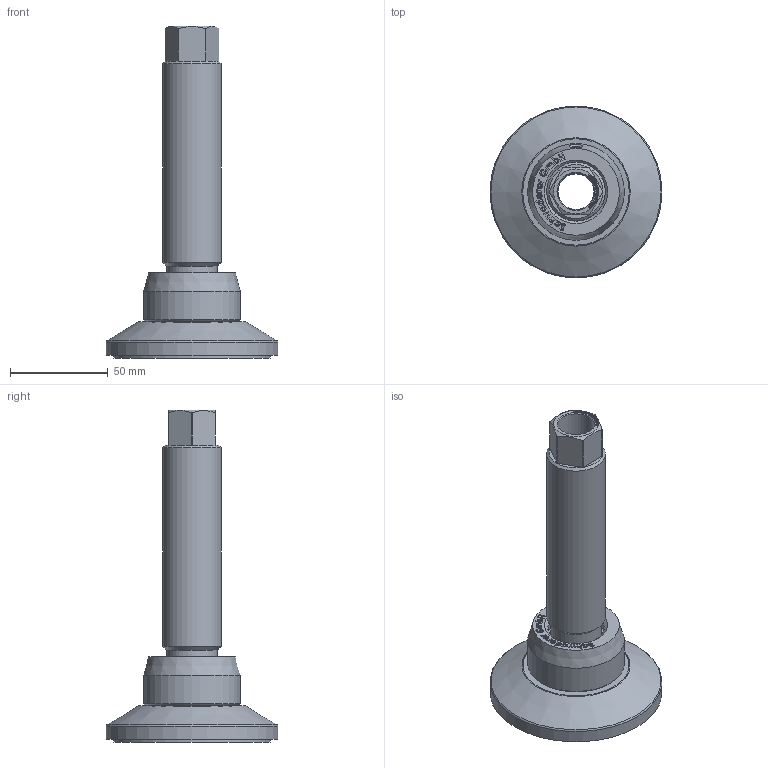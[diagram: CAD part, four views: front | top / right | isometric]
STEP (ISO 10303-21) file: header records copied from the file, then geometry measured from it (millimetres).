
FILE_DESCRIPTION(/* description */ ('JCM 80C - M30 - S6'),/* implementation_level */ '2;1');
FILE_NAME(/* name */ 'P:\CAD ab 2015\STP - Internetseite\JCMHD\JCMHD 80C - S - HSD145.stp',/* time_stamp */ '2021-09-30T15:56:01+02:00',/* author */ ('T. Rey'),/* organization */ ('Schwaderer GmbH Robert-Bosch-Str. 10 71563 Affalterbach'),/* preprocessor_version */ 'ST-DEVELOPER v18.1',/* originating_system */ 'Autodesk Inventor LT',/* authorisation */ '');
FILE_SCHEMA (('CONFIG_CONTROL_DESIGN'));
Length unit declared in the file: millimetre
Products named in the file (1): JCMHD 80C - S - HSD110
Bounding box: 88 x 88 x 169.9 mm (x, y, z)
Volume: 170813.6 mm3; surface area: 59089.4 mm2
Topology: 4 solids, 4 shells, 479 faces, 1300 edges, 869 vertices
Faces by surface type: plane 243, bspline 192, cylinder 23, cone 17, torus 3, sphere 1
Full cylindrical faces by diameter (mm): 5 x1, 18.5 x2, 25 x1, 26 x1, 26.5 x1, 27.5 x1, 28.5 x2, 30 x2, 31 x1, 49.5 x1, 80 x2, 88 x1
Entity records: 16586 total; most frequent: CARTESIAN_POINT 5618, ORIENTED_EDGE 2600, DIRECTION 1593, EDGE_CURVE 1300, VERTEX_POINT 869, LINE 781, VECTOR 781, EDGE_LOOP 529
